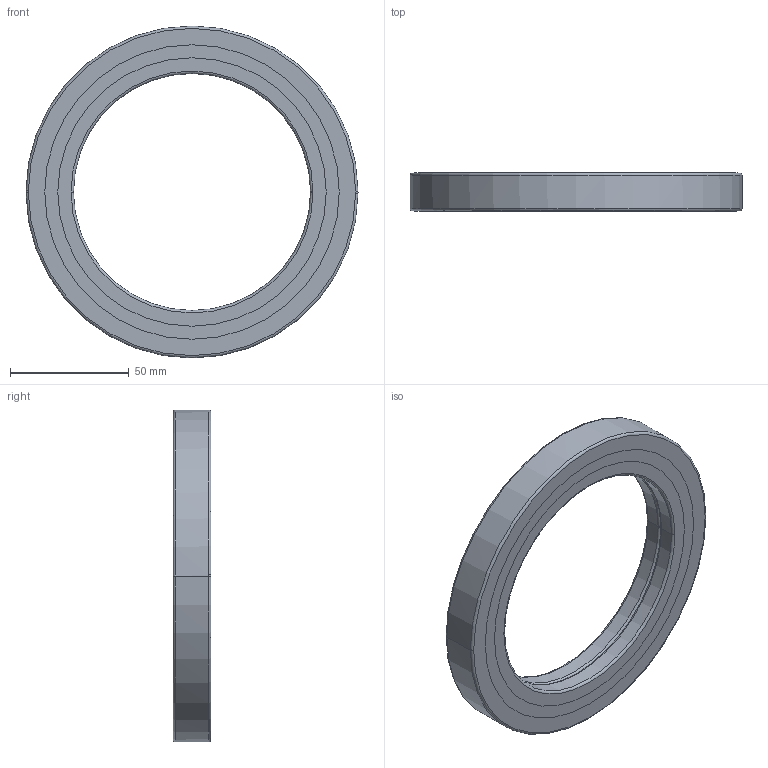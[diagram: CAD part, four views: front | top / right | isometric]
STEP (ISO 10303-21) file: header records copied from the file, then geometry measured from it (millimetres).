
FILE_DESCRIPTION(('no description'),'unknown implementation level');
FILE_NAME('CRBB10016_62.stp',' ',('HIWIN GmbH'),('CADClick - KiM GmbH - www.kimweb.de'),'unknown preprocess','ACIS','unknown authorization');
FILE_SCHEMA(('automotive_design'));
Length unit declared in the file: millimetre
Products named in the file (5): CRBB10016_1; CRBB10016_2; CRBB10016_3; CRBB10016_4; CRBB10016
Bounding box: 140 x 16 x 140 mm (x, y, z)
Volume: 94540.7 mm3; surface area: 49293.3 mm2
Topology: 5 solids, 5 shells, 54 faces, 120 edges, 76 vertices
Faces by surface type: torus 24, cylinder 20, plane 10
Entity records: 3096 total; most frequent: DIRECTION 338, STYLED_ITEM 255, PRESENTATION_STYLE_ASSIGNMENT 255, CARTESIAN_POINT 255, COLOUR_RGB 255, ORIENTED_EDGE 240, AXIS2_PLACEMENT_3D 159, EDGE_CURVE 120
